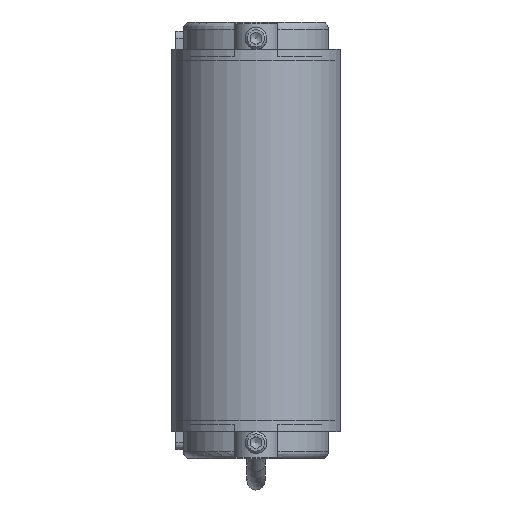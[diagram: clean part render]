
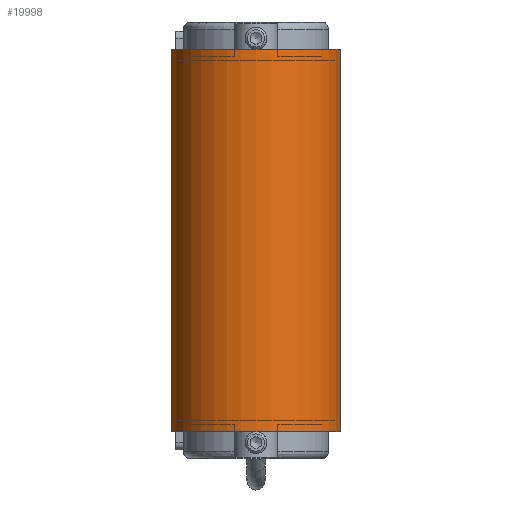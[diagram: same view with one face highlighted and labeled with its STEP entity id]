
A CAD part, front view. The second image highlights one B-rep face of the part: STEP entity #19998.
In plain terms, the highlighted cylindrical face has radius 23.3 mm (diameter 46.6 mm), a partial arc.
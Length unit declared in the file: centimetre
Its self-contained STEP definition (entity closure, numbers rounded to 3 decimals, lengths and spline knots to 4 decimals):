
#562=CYLINDRICAL_SURFACE('',#21402,2.33);
#1257=CIRCLE('',#21397,2.33);
#1260=CIRCLE('',#21403,2.33);
#2099=FACE_OUTER_BOUND('',#3170,.T.);
#3170=EDGE_LOOP('',(#13599,#13600,#13601,#13602));
#4540=LINE('',#29622,#6145);
#4541=LINE('',#29626,#6146);
#6145=VECTOR('',#24241,1.);
#6146=VECTOR('',#24246,1.);
#7952=VERTEX_POINT('',#29605);
#7953=VERTEX_POINT('',#29606);
#7958=VERTEX_POINT('',#29620);
#7959=VERTEX_POINT('',#29624);
#10161=EDGE_CURVE('',#7952,#7953,#1257,.T.);
#10169=EDGE_CURVE('',#7958,#7953,#4540,.T.);
#10170=EDGE_CURVE('',#7958,#7959,#1260,.T.);
#10171=EDGE_CURVE('',#7952,#7959,#4541,.T.);
#13599=ORIENTED_EDGE('',*,*,#10170,.T.);
#13600=ORIENTED_EDGE('',*,*,#10171,.F.);
#13601=ORIENTED_EDGE('',*,*,#10161,.T.);
#13602=ORIENTED_EDGE('',*,*,#10169,.F.);
#19998=ADVANCED_FACE('',(#2099),#562,.T.);
#21397=AXIS2_PLACEMENT_3D('',#29607,#24226,#24227);
#21402=AXIS2_PLACEMENT_3D('',#29623,#24242,#24243);
#21403=AXIS2_PLACEMENT_3D('',#29625,#24244,#24245);
#24226=DIRECTION('center_axis',(0.,0.,
-1.));
#24227=DIRECTION('ref_axis',(-1.,0.,0.));
#24241=DIRECTION('',(0.,0.,1.));
#24242=DIRECTION('center_axis',(0.,0.,
-1.));
#24243=DIRECTION('ref_axis',(-1.,0.,0.));
#24244=DIRECTION('center_axis',(0.,0.,
1.));
#24245=DIRECTION('ref_axis',(-1.,0.,0.));
#24246=DIRECTION('',(0.,0.,-1.));
#29605=CARTESIAN_POINT('',(2.33,-147.,5.25));
#29606=CARTESIAN_POINT('',(-2.33,-147.,5.25));
#29607=CARTESIAN_POINT('Origin',(0.,-147.,5.25));
#29620=CARTESIAN_POINT('',(-2.33,-147.,-5.25));
#29622=CARTESIAN_POINT('',(-2.33,-147.,0.));
#29623=CARTESIAN_POINT('Origin',(0.,-147.,0.));
#29624=CARTESIAN_POINT('',(2.33,-147.,-5.25));
#29625=CARTESIAN_POINT('Origin',(0.,-147.,-5.25));
#29626=CARTESIAN_POINT('',(2.33,-147.,0.));
